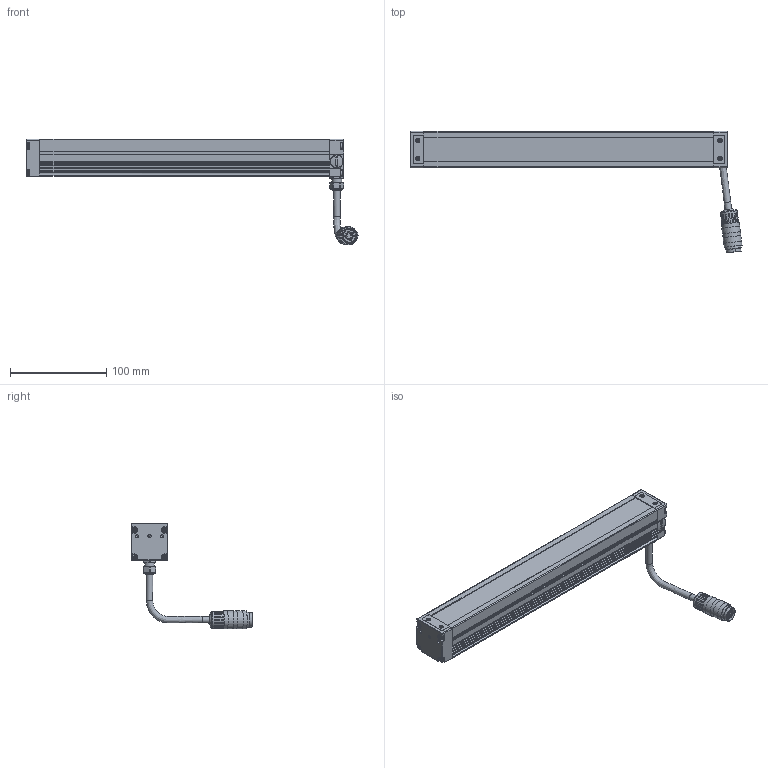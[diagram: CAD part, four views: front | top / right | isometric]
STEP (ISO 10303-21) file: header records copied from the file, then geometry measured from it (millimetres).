
FILE_DESCRIPTION(/* description */ (''),/* implementation_level */ '2;1');
FILE_NAME(/* name */ 'LBHP300',/* time_stamp */ '2025-01-14T08:04:18+01:00',/* author */ (''),/* organization */ ('iiM AG'),/* preprocessor_version */ 'ST-DEVELOPER v16.7',/* originating_system */ 'DEX',/* authorisation */ $);
FILE_SCHEMA (('AUTOMOTIVE_DESIGN {1 0 10303 214 3 1 1}'));
Length unit declared in the file: millimetre
Products named in the file (1): step export
Bounding box: 344.79 x 126.2 x 109.58 mm (x, y, z)
Volume: 435545.3 mm3; surface area: 100450 mm2
Topology: 2 solids, 2 shells, 882 faces, 2334 edges, 1476 vertices
Faces by surface type: cylinder 368, plane 336, cone 138, sphere 21, torus 16, bspline 3
Full cylindrical faces by diameter (mm): 1.001 x12, 2.693 x4, 3 x2, 3.1 x4, 3.242 x6, 3.8 x8, 5.6 x8, 6 x8, 6.8 x2, 8.008 x1, 10 x1, 11 x1, 12.9 x2, 14 x1, 15.015 x1, 16.016 x1, 17.518 x1, 18.519 x3, 18.619 x2
Entity records: 32582 total; most frequent: CARTESIAN_POINT 6224, ORIENTED_EDGE 4118, DIRECTION 4048, EDGE_CURVE 2059, AXIS2_PLACEMENT_3D 1523, VERTEX_POINT 1383, FACE_BOUND 1100, EDGE_LOOP 1086
